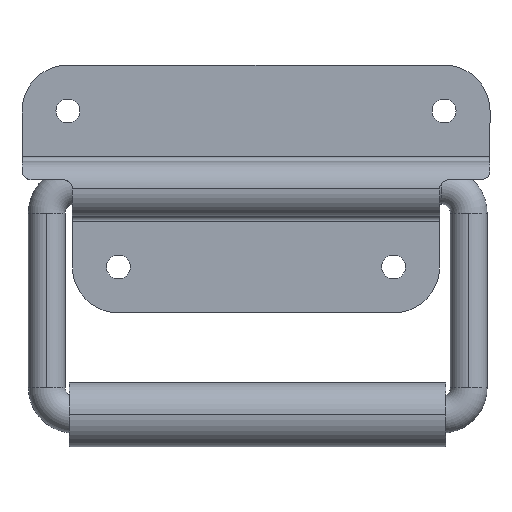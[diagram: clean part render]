
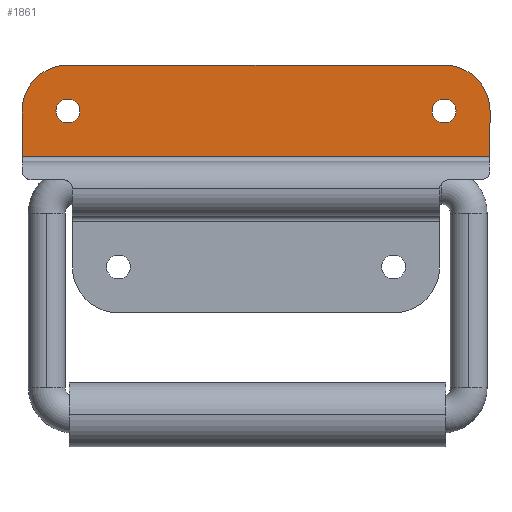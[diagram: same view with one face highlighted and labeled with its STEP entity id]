
A CAD part, front view. The second image highlights one B-rep face of the part: STEP entity #1861.
In plain terms, the highlighted planar face has unit normal (0, -1, 0) as drawn and (0, 1, 0) by its records, which use the part's own axes.
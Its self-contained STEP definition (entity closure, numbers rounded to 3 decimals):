
#415=CARTESIAN_POINT('',(89.0,-88.683,17.107));
#416=VERTEX_POINT('',#415);
#425=CARTESIAN_POINT('',(89.0,-88.683,11.907));
#426=VERTEX_POINT('',#425);
#427=CARTESIAN_POINT('',(89.0,-88.683,14.507));
#428=DIRECTION('',(0.0,-1.0,0.0));
#429=DIRECTION('',(0.0,0.0,1.0));
#430=AXIS2_PLACEMENT_3D('',#427,#428,#429);
#431=CIRCLE('',#430,2.6);
#432=EDGE_CURVE('',#426,#416,#431,.T.);
#457=CARTESIAN_POINT('',(7.0,-88.683,17.107));
#458=VERTEX_POINT('',#457);
#467=CARTESIAN_POINT('',(7.0,-88.683,11.907));
#468=VERTEX_POINT('',#467);
#469=CARTESIAN_POINT('',(7.0,-88.683,14.507));
#470=DIRECTION('',(0.0,-1.0,0.0));
#471=DIRECTION('',(0.0,0.0,1.0));
#472=AXIS2_PLACEMENT_3D('',#469,#470,#471);
#473=CIRCLE('',#472,2.6);
#474=EDGE_CURVE('',#468,#458,#473,.T.);
#501=CARTESIAN_POINT('',(-0.071,-88.683,7.436));
#502=VERTEX_POINT('',#501);
#518=CARTESIAN_POINT('',(-3.0,-88.683,14.507));
#519=VERTEX_POINT('',#518);
#526=CARTESIAN_POINT('',(7.0,-88.683,14.507));
#527=DIRECTION('',(0.0,-1.,0.0));
#528=DIRECTION('',(-0.707,0.0,-0.707));
#529=AXIS2_PLACEMENT_3D('',#526,#527,#528);
#530=CIRCLE('',#529,10.0);
#531=EDGE_CURVE('',#519,#502,#530,.T.);
#543=CARTESIAN_POINT('',(96.071,-88.683,7.436));
#544=VERTEX_POINT('',#543);
#560=CARTESIAN_POINT('',(89.0,-88.683,4.507));
#561=VERTEX_POINT('',#560);
#568=CARTESIAN_POINT('',(89.0,-88.683,14.507));
#569=DIRECTION('',(0.0,-1.,0.0));
#570=DIRECTION('',(0.707,0.0,-0.707));
#571=AXIS2_PLACEMENT_3D('',#568,#569,#570);
#572=CIRCLE('',#571,10.0);
#573=EDGE_CURVE('',#561,#544,#572,.T.);
#1317=CARTESIAN_POINT('',(99.0,-88.683,14.507));
#1318=VERTEX_POINT('',#1317);
#1327=CARTESIAN_POINT('',(99.0,-88.683,24.507));
#1328=VERTEX_POINT('',#1327);
#1329=CARTESIAN_POINT('',(99.0,-88.683,24.507));
#1330=DIRECTION('',(0.0,0.0,-1.0));
#1331=VECTOR('',#1330,10.);
#1332=LINE('',#1329,#1331);
#1333=EDGE_CURVE('',#1328,#1318,#1332,.T.);
#1430=CARTESIAN_POINT('',(7.0,-88.683,4.507));
#1431=VERTEX_POINT('',#1430);
#1438=CARTESIAN_POINT('',(7.0,-88.683,4.507));
#1439=DIRECTION('',(1.0,0.0,0.0));
#1440=VECTOR('',#1439,82.0);
#1441=LINE('',#1438,#1440);
#1442=EDGE_CURVE('',#1431,#561,#1441,.T.);
#1564=CARTESIAN_POINT('',(89.0,-88.683,14.507));
#1565=DIRECTION('',(0.0,-1.,0.0));
#1566=DIRECTION('',(0.707,0.0,-0.707));
#1567=AXIS2_PLACEMENT_3D('',#1564,#1565,#1566);
#1568=CIRCLE('',#1567,10.0);
#1569=EDGE_CURVE('',#544,#1318,#1568,.T.);
#1582=CARTESIAN_POINT('',(7.0,-88.683,14.507));
#1583=DIRECTION('',(0.0,-1.,0.0));
#1584=DIRECTION('',(-0.707,0.0,-0.707));
#1585=AXIS2_PLACEMENT_3D('',#1582,#1583,#1584);
#1586=CIRCLE('',#1585,10.0);
#1587=EDGE_CURVE('',#502,#1431,#1586,.T.);
#1619=CARTESIAN_POINT('',(7.0,-88.683,14.507));
#1620=DIRECTION('',(0.0,-1.0,0.0));
#1621=DIRECTION('',(0.0,0.0,1.0));
#1622=AXIS2_PLACEMENT_3D('',#1619,#1620,#1621);
#1623=CIRCLE('',#1622,2.6);
#1624=EDGE_CURVE('',#458,#468,#1623,.T.);
#1637=CARTESIAN_POINT('',(89.0,-88.683,14.507));
#1638=DIRECTION('',(0.0,-1.0,0.0));
#1639=DIRECTION('',(0.0,0.0,1.0));
#1640=AXIS2_PLACEMENT_3D('',#1637,#1638,#1639);
#1641=CIRCLE('',#1640,2.6);
#1642=EDGE_CURVE('',#416,#426,#1641,.T.);
#1654=CARTESIAN_POINT('',(-3.0,-88.683,24.507));
#1655=VERTEX_POINT('',#1654);
#1656=CARTESIAN_POINT('',(99.0,-88.683,24.507));
#1657=DIRECTION('',(-1.0,0.0,0.0));
#1658=VECTOR('',#1657,102.0);
#1659=LINE('',#1656,#1658);
#1660=EDGE_CURVE('',#1328,#1655,#1659,.T.);
#1829=CARTESIAN_POINT('',(-3.0,-88.683,24.507));
#1830=DIRECTION('',(0.0,0.0,-1.0));
#1831=VECTOR('',#1830,10.);
#1832=LINE('',#1829,#1831);
#1833=EDGE_CURVE('',#1655,#519,#1832,.T.);
#1838=CARTESIAN_POINT('',(-8.1,-88.683,25.507));
#1839=DIRECTION('',(0.0,1.0,0.0));
#1840=DIRECTION('',(0.0,0.0,1.0));
#1841=AXIS2_PLACEMENT_3D('',#1838,#1839,#1840);
#1842=PLANE('',#1841);
#1843=ORIENTED_EDGE('',*,*,#573,.F.);
#1844=ORIENTED_EDGE('',*,*,#1442,.F.);
#1845=ORIENTED_EDGE('',*,*,#1587,.F.);
#1846=ORIENTED_EDGE('',*,*,#531,.F.);
#1847=ORIENTED_EDGE('',*,*,#1833,.F.);
#1848=ORIENTED_EDGE('',*,*,#1660,.F.);
#1849=ORIENTED_EDGE('',*,*,#1333,.T.);
#1850=ORIENTED_EDGE('',*,*,#1569,.F.);
#1851=EDGE_LOOP('',(#1843,#1844,#1845,#1846,#1847,#1848,#1849,#1850));
#1852=FACE_OUTER_BOUND('',#1851,.T.);
#1853=ORIENTED_EDGE('',*,*,#1642,.T.);
#1854=ORIENTED_EDGE('',*,*,#432,.T.);
#1855=EDGE_LOOP('',(#1853,#1854));
#1856=FACE_BOUND('',#1855,.T.);
#1857=ORIENTED_EDGE('',*,*,#1624,.T.);
#1858=ORIENTED_EDGE('',*,*,#474,.T.);
#1859=EDGE_LOOP('',(#1857,#1858));
#1860=FACE_BOUND('',#1859,.T.);
#1861=ADVANCED_FACE('',(#1852,#1856,#1860),#1842,.T.);
